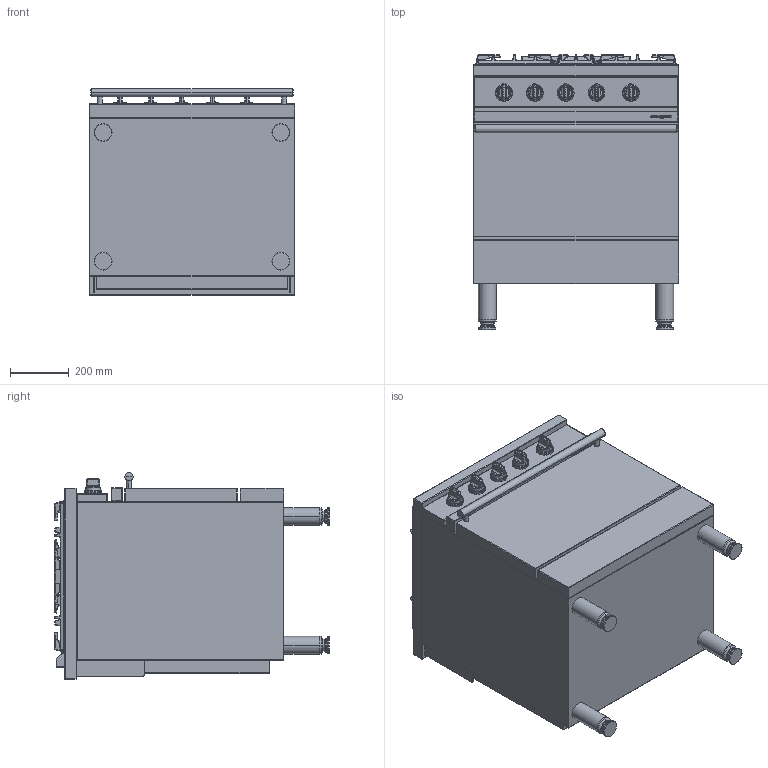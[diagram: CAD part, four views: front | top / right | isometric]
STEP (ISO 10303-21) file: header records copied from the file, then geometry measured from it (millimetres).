
FILE_DESCRIPTION((''),'2;1');
FILE_NAME('CG741_EXPORT_STEP_ASM','2017-11-22T',('r.avril'),(''),'PRO/ENGINEER BY PARAMETRIC TECHNOLOGY CORPORATION, 2014200','PRO/ENGINEER BY PARAMETRIC TECHNOLOGY CORPORATION, 2014200','');
FILE_SCHEMA(('AP203_CONFIGURATION_CONTROLLED_3D_DESIGN_OF_MECHANICAL_PARTS_AND_ASSEMBLIES_MIM_LF { 1 0 10303 403 2 1 2 }'));
Products named in the file (13): FOURNEAUX_AMB_700_EXPORT_STEP; TABLE_700_CLASSIQUE_4F; 3KW; 1_5KW; 4KW; 6537026; 65149005; 90000566_ASM; 6537023; 90000565_ASM; TABLE_700_CLASSIQUE_4F_ASM; MANETTE_AMB_EXPORT_STEP; CG741_EXPORT_STEP_ASM
Assembly tree (25 placements, depth 4):
  CG741_EXPORT_STEP_ASM
    FOURNEAUX_AMB_700_EXPORT_STEP
    TABLE_700_CLASSIQUE_4F_ASM
      TABLE_700_CLASSIQUE_4F
      3KW  x2
      1_5KW
      4KW
      90000566_ASM
        6537026
        65149005  x4
      90000565_ASM  x2
        6537023
        65149005
    MANETTE_AMB_EXPORT_STEP  x5
Bounding box: 700 x 935 x 703 mm (x, y, z)
Volume: 319430402 mm3; surface area: 5941571.4 mm2
Topology: 41 solids, 59 shells, 3356 faces, 9003 edges, 6103 vertices
Faces by surface type: bspline 1024, cylinder 1011, plane 776, cone 275, torus 124, sphere 106, extrusion 40
Entity records: 113077 total; most frequent: CARTESIAN_POINT 43527, ORIENTED_EDGE 10116, DIRECTION 9045, EDGE_CURVE 5283, PRESENTATION_STYLE_ASSIGNMENT 4822, STYLED_ITEM 4822, CURVE_STYLE 4617, VERTEX_POINT 3225
